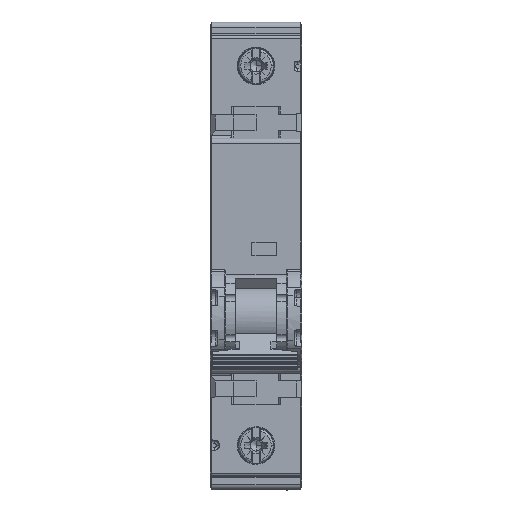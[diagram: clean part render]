
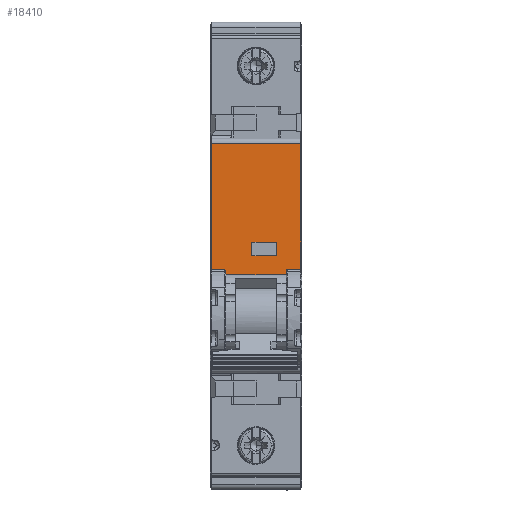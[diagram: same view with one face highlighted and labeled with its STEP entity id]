
A CAD part, top view. The second image highlights one B-rep face of the part: STEP entity #18410.
In plain terms, the highlighted planar face has unit normal (0, 0, 1).
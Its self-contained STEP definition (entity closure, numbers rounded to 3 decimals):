
#2733 = EDGE_CURVE ( 'NONE', #85048, #64250, #24258, .T. ) ;
#2756 = EDGE_LOOP ( 'NONE', ( #25417, #4863, #72437, #55966, #32439, #37303, #48478, #31631, #8655, #72072 ) ) ;
#3657 = CARTESIAN_POINT ( 'NONE',  ( -14.528, 12.561, 64. ) ) ;
#3971 = CARTESIAN_POINT ( 'NONE',  ( -14.4, 12.188, 64. ) ) ;
#4863 = ORIENTED_EDGE ( 'NONE', *, *, #6413, .T. ) ;
#6152 = VECTOR ( 'NONE', #11241, 1000. ) ;
#6413 = EDGE_CURVE ( 'NONE', #38336, #86326, #12036, .T. ) ;
#8655 = ORIENTED_EDGE ( 'NONE', *, *, #11721, .T. ) ;
#9162 = CARTESIAN_POINT ( 'NONE',  ( -2.736, 12.441, 64. ) ) ;
#11241 = DIRECTION ( 'NONE',  ( 1., 0., 0. ) ) ;
#11247 = CARTESIAN_POINT ( 'NONE',  ( 0., 12.678, 64. ) ) ;
#11326 = LINE ( 'NONE', #60905, #84493 ) ;
#11721 = EDGE_CURVE ( 'NONE', #42683, #34020, #78011, .T. ) ;
#12036 = LINE ( 'NONE', #71020, #31111 ) ;
#13071 = LINE ( 'NONE', #61141, #6152 ) ;
#13234 = LINE ( 'NONE', #37189, #86358 ) ;
#13920 = VERTEX_POINT ( 'NONE', #11247 ) ;
#15885 = DIRECTION ( 'NONE',  ( 0., 1., 0. ) ) ;
#16459 = CARTESIAN_POINT ( 'NONE',  ( -2.709, 12.499, 64. ) ) ;
#16496 = CARTESIAN_POINT ( 'NONE',  ( -2.8, 11.647, 64. ) ) ;
#17349 = LINE ( 'NONE', #62177, #53085 ) ;
#18396 = DIRECTION ( 'NONE',  ( 0., 1., 0. ) ) ;
#18410 = ADVANCED_FACE ( 'NONE', ( #30051, #22250 ), #86878, .T. ) ;
#20602 = CARTESIAN_POINT ( 'NONE',  ( -17.2, 12.678, 64. ) ) ;
#20881 = VECTOR ( 'NONE', #88024, 1000. ) ;
#21848 = CARTESIAN_POINT ( 'NONE',  ( -2.6, 12.678, 64. ) ) ;
#21921 = VERTEX_POINT ( 'NONE', #16496 ) ;
#22250 = FACE_BOUND ( 'NONE', #68921, .T. ) ;
#23474 = EDGE_CURVE ( 'NONE', #86326, #50069, #40545, .T. ) ;
#23530 = CARTESIAN_POINT ( 'NONE',  ( 0.2, 11.647, 64. ) ) ;
#23688 = CARTESIAN_POINT ( 'NONE',  ( -2.6, 12.678, 64. ) ) ;
#24258 = LINE ( 'NONE', #84466, #30989 ) ;
#25417 = ORIENTED_EDGE ( 'NONE', *, *, #87835, .F. ) ;
#25536 = CARTESIAN_POINT ( 'NONE',  ( -14.479, 12.472, 64. ) ) ;
#25800 = DIRECTION ( 'NONE',  ( 0., -1., 0. ) ) ;
#26519 = ORIENTED_EDGE ( 'NONE', *, *, #44371, .T. ) ;
#26752 = DIRECTION ( 'NONE',  ( -1., 0., 0. ) ) ;
#27525 = CARTESIAN_POINT ( 'NONE',  ( 0., 15.295, 64. ) ) ;
#28182 = EDGE_CURVE ( 'NONE', #53930, #87440, #13234, .T. ) ;
#29594 = EDGE_CURVE ( 'NONE', #53930, #21921, #75284, .T. ) ;
#29922 = EDGE_CURVE ( 'NONE', #61545, #87440, #43984, .T. ) ;
#29947 = CARTESIAN_POINT ( 'NONE',  ( 0.2, 12.678, 64. ) ) ;
#30051 = FACE_OUTER_BOUND ( 'NONE', #2756, .T. ) ;
#30715 = LINE ( 'NONE', #92320, #84790 ) ;
#30732 = DIRECTION ( 'NONE',  ( 1., 0., 0. ) ) ;
#30853 = CARTESIAN_POINT ( 'NONE',  ( -2.8, 12.188, 64. ) ) ;
#30989 = VECTOR ( 'NONE', #87031, 1000. ) ;
#31111 = VECTOR ( 'NONE', #87545, 1000. ) ;
#31631 = ORIENTED_EDGE ( 'NONE', *, *, #68740, .F. ) ;
#32033 = CARTESIAN_POINT ( 'NONE',  ( -17.2, 36.845, 64. ) ) ;
#32439 = ORIENTED_EDGE ( 'NONE', *, *, #29922, .T. ) ;
#32713 = CARTESIAN_POINT ( 'NONE',  ( -14.47, 12.454, 64. ) ) ;
#34020 = VERTEX_POINT ( 'NONE', #21848 ) ;
#34717 = DIRECTION ( 'NONE',  ( 0., -1., 0. ) ) ;
#35338 = LINE ( 'NONE', #68023, #37626 ) ;
#35601 = CARTESIAN_POINT ( 'NONE',  ( -17.2, 11.647, 64. ) ) ;
#35602 = CARTESIAN_POINT ( 'NONE',  ( -2.792, 12.288, 64. ) ) ;
#36576 = DIRECTION ( 'NONE',  ( 0., -1., 0. ) ) ;
#37189 = CARTESIAN_POINT ( 'NONE',  ( -14.4, 15.295, 64. ) ) ;
#37303 = ORIENTED_EDGE ( 'NONE', *, *, #28182, .F. ) ;
#37626 = VECTOR ( 'NONE', #18396, 1000. ) ;
#37838 = VERTEX_POINT ( 'NONE', #67867 ) ;
#38285 = VECTOR ( 'NONE', #77833, 1000. ) ;
#38336 = VERTEX_POINT ( 'NONE', #52871 ) ;
#38679 = VECTOR ( 'NONE', #34717, 1000. ) ;
#38840 = CARTESIAN_POINT ( 'NONE',  ( 0.2, 11.647, 64. ) ) ;
#39759 = CARTESIAN_POINT ( 'NONE',  ( -9.4, 15.295, 64. ) ) ;
#39942 = CARTESIAN_POINT ( 'NONE',  ( -14.468, 12.45, 64. ) ) ;
#39980 = ORIENTED_EDGE ( 'NONE', *, *, #66152, .T. ) ;
#40545 = LINE ( 'NONE', #35601, #38285 ) ;
#40789 = AXIS2_PLACEMENT_3D ( 'NONE', #23530, #73114, #30732 ) ;
#42683 = VERTEX_POINT ( 'NONE', #30853 ) ;
#43248 = ORIENTED_EDGE ( 'NONE', *, *, #63143, .T. ) ;
#43569 = CARTESIAN_POINT ( 'NONE',  ( -14.4, 12.188, 64. ) ) ;
#43709 = LINE ( 'NONE', #29947, #81110 ) ;
#43984 = B_SPLINE_CURVE_WITH_KNOTS ( 'NONE', 3,
 ( #60926, #53860, #3657, #67953, #25536, #75049, #32713, #82087, #39942, #89130, #47105, #3971 ),
 .UNSPECIFIED., .F., .F.,
 ( 4, 1, 1, 1, 1, 2, 2, 4 ),
 ( 0., 0.25, 0.375, 0.438, 0.469, 0.484, 0.5, 1. ),
 .UNSPECIFIED. ) ;
#44349 = ORIENTED_EDGE ( 'NONE', *, *, #2733, .T. ) ;
#44371 = EDGE_CURVE ( 'NONE', #77347, #85048, #35338, .T. ) ;
#47105 = CARTESIAN_POINT ( 'NONE',  ( -14.4, 12.266, 64. ) ) ;
#48162 = EDGE_CURVE ( 'NONE', #34020, #13920, #13071, .T. ) ;
#48478 = ORIENTED_EDGE ( 'NONE', *, *, #29594, .T. ) ;
#50069 = VERTEX_POINT ( 'NONE', #20602 ) ;
#50859 = CARTESIAN_POINT ( 'NONE',  ( -2.8, 12.227, 64. ) ) ;
#52063 = CARTESIAN_POINT ( 'NONE',  ( -2.739, 12.435, 64. ) ) ;
#52871 = CARTESIAN_POINT ( 'NONE',  ( 0., 36.845, 64. ) ) ;
#53085 = VECTOR ( 'NONE', #26752, 1000. ) ;
#53860 = CARTESIAN_POINT ( 'NONE',  ( -14.568, 12.628, 64. ) ) ;
#53930 = VERTEX_POINT ( 'NONE', #80949 ) ;
#55966 = ORIENTED_EDGE ( 'NONE', *, *, #61548, .T. ) ;
#57424 = LINE ( 'NONE', #27525, #38679 ) ;
#57509 = CARTESIAN_POINT ( 'NONE',  ( -2.8, 12.188, 64. ) ) ;
#57922 = CARTESIAN_POINT ( 'NONE',  ( -14.6, 12.678, 64. ) ) ;
#59114 = CARTESIAN_POINT ( 'NONE',  ( -2.734, 12.445, 64. ) ) ;
#60905 = CARTESIAN_POINT ( 'NONE',  ( -4.6, 11.647, 64. ) ) ;
#60926 = CARTESIAN_POINT ( 'NONE',  ( -14.6, 12.678, 64. ) ) ;
#61141 = CARTESIAN_POINT ( 'NONE',  ( 0.2, 12.678, 64. ) ) ;
#61545 = VERTEX_POINT ( 'NONE', #57922 ) ;
#61548 = EDGE_CURVE ( 'NONE', #50069, #61545, #43709, .T. ) ;
#62177 = CARTESIAN_POINT ( 'NONE',  ( 0.2, 15.295, 64. ) ) ;
#63143 = EDGE_CURVE ( 'NONE', #37838, #77347, #17349, .T. ) ;
#64250 = VERTEX_POINT ( 'NONE', #71718 ) ;
#66152 = EDGE_CURVE ( 'NONE', #64250, #37838, #11326, .T. ) ;
#66172 = CARTESIAN_POINT ( 'NONE',  ( -2.664, 12.576, 64. ) ) ;
#67867 = CARTESIAN_POINT ( 'NONE',  ( -4.6, 15.295, 64. ) ) ;
#67953 = CARTESIAN_POINT ( 'NONE',  ( -14.493, 12.499, 64. ) ) ;
#68021 = CARTESIAN_POINT ( 'NONE',  ( -2.743, 12.426, 64. ) ) ;
#68023 = CARTESIAN_POINT ( 'NONE',  ( -9.4, 11.647, 64. ) ) ;
#68740 = EDGE_CURVE ( 'NONE', #42683, #21921, #30715, .T. ) ;
#68921 = EDGE_LOOP ( 'NONE', ( #39980, #43248, #26519, #44349 ) ) ;
#70317 = CARTESIAN_POINT ( 'NONE',  ( -2.752, 12.406, 64. ) ) ;
#71020 = CARTESIAN_POINT ( 'NONE',  ( 0.2, 36.845, 64. ) ) ;
#71718 = CARTESIAN_POINT ( 'NONE',  ( -4.6, 17.895, 64. ) ) ;
#72072 = ORIENTED_EDGE ( 'NONE', *, *, #48162, .T. ) ;
#72437 = ORIENTED_EDGE ( 'NONE', *, *, #23474, .T. ) ;
#73114 = DIRECTION ( 'NONE',  ( 0., 0., 1. ) ) ;
#75049 = CARTESIAN_POINT ( 'NONE',  ( -14.473, 12.459, 64. ) ) ;
#75284 = LINE ( 'NONE', #38840, #20881 ) ;
#77347 = VERTEX_POINT ( 'NONE', #39759 ) ;
#77833 = DIRECTION ( 'NONE',  ( 0., -1., 0. ) ) ;
#78011 = B_SPLINE_CURVE_WITH_KNOTS ( 'NONE', 3,
 ( #57509, #50859, #35602, #81478, #70317, #68021, #52063, #9162, #59114, #16459, #66172, #23688 ),
 .UNSPECIFIED., .F., .F.,
 ( 4, 1, 1, 1, 1, 2, 2, 4 ),
 ( 0., 0.25, 0.375, 0.437, 0.469, 0.484, 0.5, 1. ),
 .UNSPECIFIED. ) ;
#79405 = DIRECTION ( 'NONE',  ( 1., 0., 0. ) ) ;
#80788 = CARTESIAN_POINT ( 'NONE',  ( -9.4, 17.895, 64. ) ) ;
#80949 = CARTESIAN_POINT ( 'NONE',  ( -14.4, 11.647, 64. ) ) ;
#81110 = VECTOR ( 'NONE', #79405, 1000. ) ;
#81478 = CARTESIAN_POINT ( 'NONE',  ( -2.767, 12.366, 64. ) ) ;
#82087 = CARTESIAN_POINT ( 'NONE',  ( -14.468, 12.45, 64. ) ) ;
#84466 = CARTESIAN_POINT ( 'NONE',  ( 0.2, 17.895, 64. ) ) ;
#84493 = VECTOR ( 'NONE', #25800, 1000. ) ;
#84790 = VECTOR ( 'NONE', #36576, 1000. ) ;
#85048 = VERTEX_POINT ( 'NONE', #80788 ) ;
#86326 = VERTEX_POINT ( 'NONE', #32033 ) ;
#86358 = VECTOR ( 'NONE', #15885, 1000. ) ;
#86878 = PLANE ( 'NONE',  #40789 ) ;
#87031 = DIRECTION ( 'NONE',  ( 1., 0., 0. ) ) ;
#87440 = VERTEX_POINT ( 'NONE', #43569 ) ;
#87545 = DIRECTION ( 'NONE',  ( -1., 0., 0. ) ) ;
#87835 = EDGE_CURVE ( 'NONE', #38336, #13920, #57424, .T. ) ;
#88024 = DIRECTION ( 'NONE',  ( 1., 0., 0. ) ) ;
#89130 = CARTESIAN_POINT ( 'NONE',  ( -14.422, 12.353, 64. ) ) ;
#92320 = CARTESIAN_POINT ( 'NONE',  ( -2.8, 15.295, 64. ) ) ;
